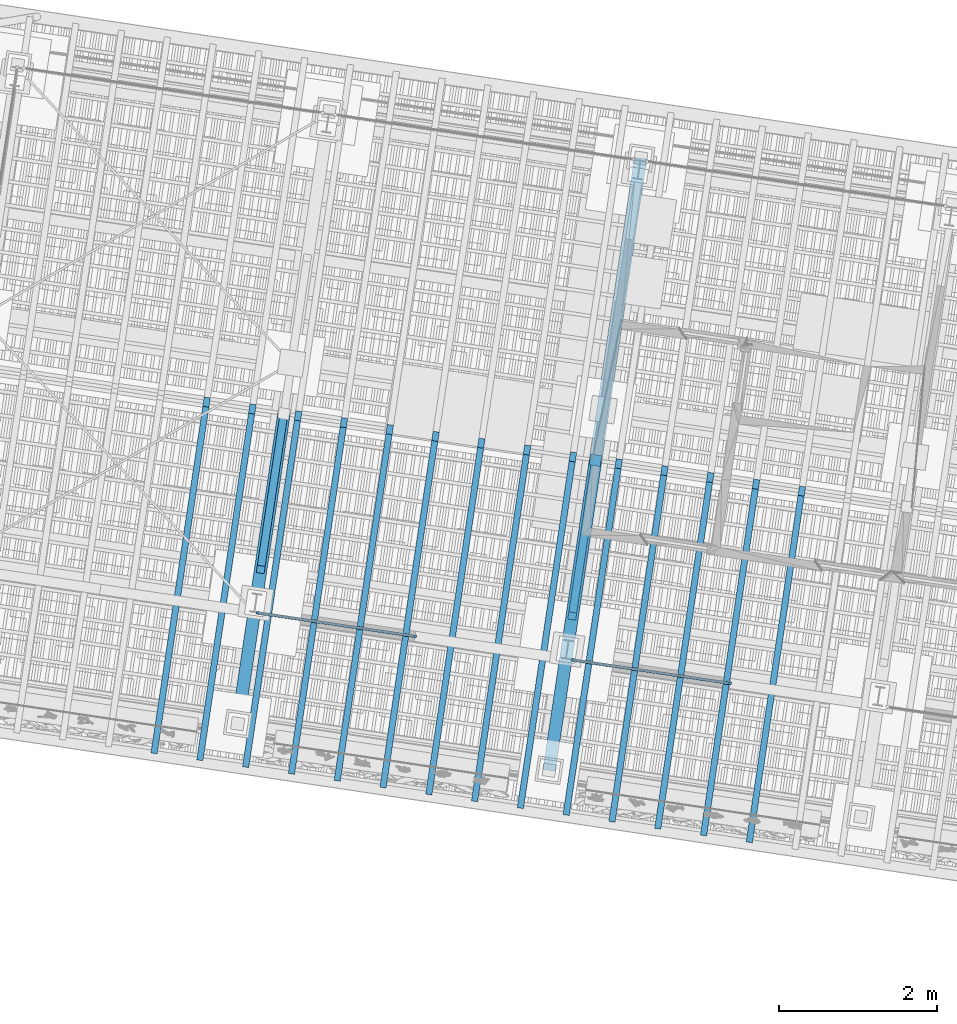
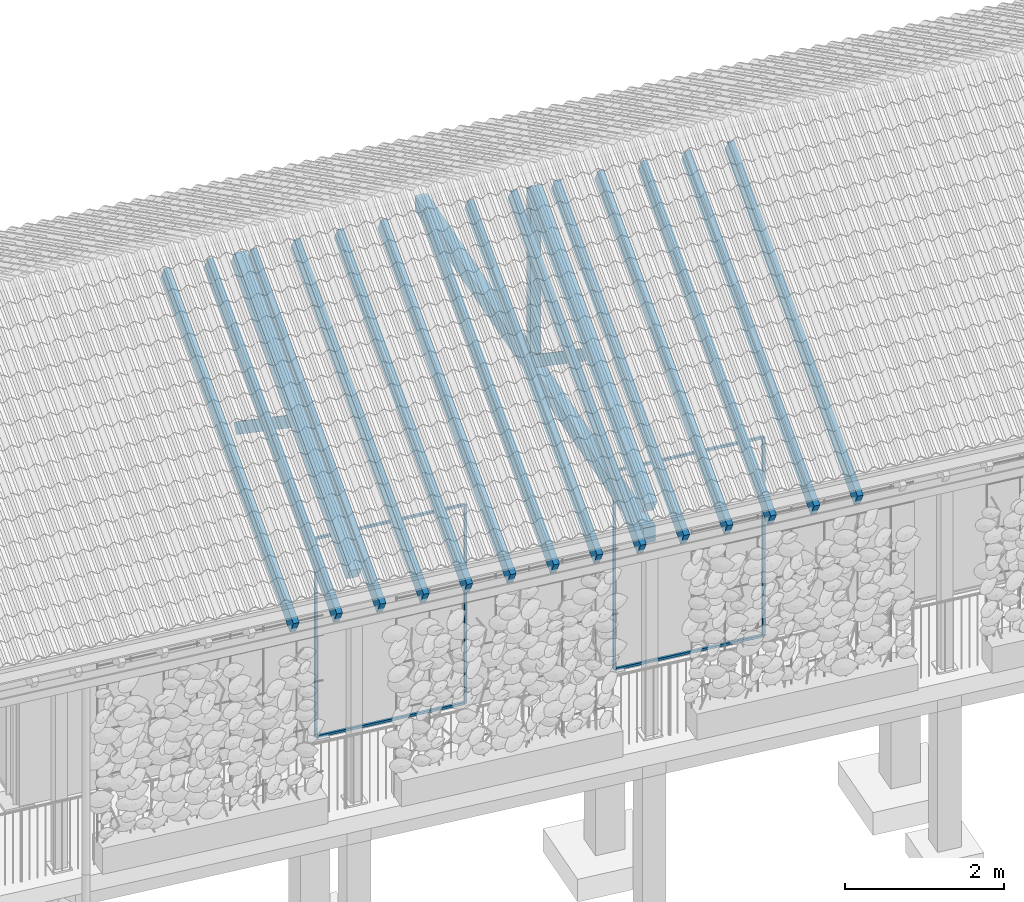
# One storey, part 58 of 131: 27 members, 1 beam, 1 element without a shape of its own.
"""IFC4 building model written with IfcOpenShell, lengths in metres."""

from ifc_helpers import new_model, si_unit, direction, frame, origin_with_axes, place, context, subcontext, project, spatial, rectangle, extrude, material, material_profile, profile_set, profile_usage, type_object, element, aggregate, save


model = new_model("IFC4")

# Units and contexts
model_context = context("Model", 3, precision=1e-05, world=origin_with_axes(), true_north=direction((0.0, 1.0)))
body_context = subcontext(model_context, "Body", "Model", "MODEL_VIEW")
ifc_project = project(units=[si_unit("VOLUMEUNIT", "CUBIC_METRE"), si_unit("LENGTHUNIT", "METRE"), si_unit("AREAUNIT", "SQUARE_METRE")], contexts=[model_context])

# Site, building, storey
site_placement = place(None, origin_with_axes())
site = spatial("IfcSite", under=ifc_project, at=site_placement, Name="Lares · Rua das Mercês · artigo 4771")
building_placement = place(site_placement, frame((15.0, 9.7, 15.8), z_axis=(0.0, 0.0, 1.0), x_axis=(0.989015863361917, -0.147809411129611, 0.0)))
building = spatial("IfcBuilding", under=site, at=building_placement, Name="Casa Sobreposta")
storey_placement = place(building_placement, origin_with_axes())
storey = spatial("IfcBuildingStorey", under=building, at=storey_placement, Name="00 · Habitação e estacionamento", Elevation=15.8)

# Members
ifc_material_1 = material(Name="Aço pintado / Stahl lackiert", Category="steel")
ifc_material_profile_1 = material_profile(ifc_material_1, rectangle(XDim=0.035, YDim=0.035))
ifc_profile_set_1 = profile_set([ifc_material_profile_1], Name="R0.035")
ifc_profile_usage_1 = profile_usage(ifc_profile_set_1)
member_type_1 = type_object("IfcMemberType", Name="R0.035 / steel", PredefinedType="NOTDEFINED", material=ifc_profile_set_1)
member_1_placement = place(storey_placement, frame((4.04266666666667, 0.0, 0.0), z_axis=(0.0, 0.0, 1.0), x_axis=(1.0, 0.0, 0.0)))
element("IfcMember", 1, at=member_1_placement, inside=storey, type_object=member_type_1, material=ifc_profile_usage_1, Name="Folha de correr sul 2 · montante", context=body_context, shape_type="SweptSolid", body=[
    extrude(rectangle(XDim=0.035, YDim=0.035), origin_with_axes(), (0.0, 0.0, 1.0), 3.05),
])
ifc_profile_usage_2 = profile_usage(ifc_profile_set_1)
member_2_placement = place(storey_placement, frame((6.064, 0.0, 0.0), z_axis=(0.0, 0.0, 1.0), x_axis=(1.0, 0.0, 0.0)))
element("IfcMember", 2, at=member_2_placement, inside=storey, type_object=member_type_1, material=ifc_profile_usage_2, Name="Folha de correr sul 2 · montante", context=body_context, shape_type="SweptSolid", body=[
    extrude(rectangle(XDim=0.035, YDim=0.035), origin_with_axes(), (0.0, 0.0, 1.0), 3.05),
])
ifc_profile_usage_3 = profile_usage(ifc_profile_set_1)
member_3_placement = place(storey_placement, frame((4.04266666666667, 0.0, 0.0), z_axis=(1.0, 0.0, 0.0), x_axis=(0.0, -1.0, 0.0)))
element("IfcMember", 3, at=member_3_placement, inside=storey, type_object=member_type_1, material=ifc_profile_usage_3, Name="Folha de correr sul 2 · travessa", context=body_context, shape_type="SweptSolid", body=[
    extrude(rectangle(XDim=0.035, YDim=0.035), origin_with_axes(), (0.0, 0.0, 1.0), 2.02133333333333),
])
ifc_profile_usage_4 = profile_usage(ifc_profile_set_1)
member_4_placement = place(storey_placement, frame((4.04266666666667, 0.0, 3.05), z_axis=(1.0, 0.0, 0.0), x_axis=(0.0, -1.0, 0.0)))
element("IfcMember", 4, at=member_4_placement, inside=storey, type_object=member_type_1, material=ifc_profile_usage_4, Name="Folha de correr sul 2 · travessa", context=body_context, shape_type="SweptSolid", body=[
    extrude(rectangle(XDim=0.035, YDim=0.035), origin_with_axes(), (0.0, 0.0, 1.0), 2.02133333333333),
])
ifc_profile_usage_5 = profile_usage(ifc_profile_set_1)
member_5_placement = place(storey_placement, frame((8.08533333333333, 0.0, 0.0), z_axis=(0.0, 0.0, 1.0), x_axis=(1.0, 0.0, 0.0)))
element("IfcMember", 5, at=member_5_placement, inside=storey, type_object=member_type_1, material=ifc_profile_usage_5, Name="Folha de correr sul 4 · montante", context=body_context, shape_type="SweptSolid", body=[
    extrude(rectangle(XDim=0.035, YDim=0.035), origin_with_axes(), (0.0, 0.0, 1.0), 3.05),
])
ifc_profile_usage_6 = profile_usage(ifc_profile_set_1)
member_6_placement = place(storey_placement, frame((10.1066666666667, 0.0, 0.0), z_axis=(0.0, 0.0, 1.0), x_axis=(1.0, 0.0, 0.0)))
element("IfcMember", 6, at=member_6_placement, inside=storey, type_object=member_type_1, material=ifc_profile_usage_6, Name="Folha de correr sul 4 · montante", context=body_context, shape_type="SweptSolid", body=[
    extrude(rectangle(XDim=0.035, YDim=0.035), origin_with_axes(), (0.0, 0.0, 1.0), 3.05),
])
ifc_profile_usage_7 = profile_usage(ifc_profile_set_1)
member_7_placement = place(storey_placement, frame((8.08533333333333, 0.0, 0.0), z_axis=(1.0, 0.0, 0.0), x_axis=(0.0, -1.0, 0.0)))
element("IfcMember", 7, at=member_7_placement, inside=storey, type_object=member_type_1, material=ifc_profile_usage_7, Name="Folha de correr sul 4 · travessa", context=body_context, shape_type="SweptSolid", body=[
    extrude(rectangle(XDim=0.035, YDim=0.035), origin_with_axes(), (0.0, 0.0, 1.0), 2.02133333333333),
])
ifc_profile_usage_8 = profile_usage(ifc_profile_set_1)
member_8_placement = place(storey_placement, frame((8.08533333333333, 0.0, 3.05), z_axis=(1.0, 0.0, 0.0), x_axis=(0.0, -1.0, 0.0)))
element("IfcMember", 8, at=member_8_placement, inside=storey, type_object=member_type_1, material=ifc_profile_usage_8, Name="Folha de correr sul 4 · travessa", context=body_context, shape_type="SweptSolid", body=[
    extrude(rectangle(XDim=0.035, YDim=0.035), origin_with_axes(), (0.0, 0.0, 1.0), 2.02133333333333),
])

# Roof, beam, members
ifc_material_2 = material(Name="Madeira / Bauholz", Category="wood")
roof_placement = place(storey_placement, origin_with_axes())
roof = element("IfcRoof", 9, at=roof_placement, inside=storey, material=ifc_material_2, Name="Cobertura de telha · duas águas 30 graus", PredefinedType="GABLE_ROOF")
ifc_material_profile_2 = material_profile(ifc_material_2, rectangle(XDim=0.16, YDim=0.24))
ifc_profile_set_2 = profile_set([ifc_material_profile_2], Name="TIMBER0.160x0.240")
ifc_profile_usage_9 = profile_usage(ifc_profile_set_2)
beam_type = type_object("IfcBeamType", Name="TIMBER0.160x0.240 / timber", PredefinedType="NOTDEFINED", material=ifc_profile_set_2)
beam_placement = place(roof_placement, frame((8.0, -1.43, 3.02), z_axis=(0.0, 1.0, 0.0), x_axis=(1.0, 0.0, 0.0)))
beam = element("IfcBeam", 10, at=beam_placement, type_object=beam_type, material=ifc_profile_usage_9, Name="Tesoura · tirante inferior", context=body_context, shape_type="SweptSolid", body=[
    extrude(rectangle(XDim=0.16, YDim=0.24), origin_with_axes(), (0.0, 0.0, 1.0), 7.86),
])
ifc_material_profile_3 = material_profile(ifc_material_2, rectangle(XDim=0.16, YDim=0.24))
ifc_profile_set_3 = profile_set([ifc_material_profile_3], Name="TIMBER0.160x0.240")
ifc_profile_usage_10 = profile_usage(ifc_profile_set_3)
member_type_2 = type_object("IfcMemberType", Name="TIMBER0.160x0.240 / timber", PredefinedType="NOTDEFINED", material=ifc_profile_set_3)
member_9_placement = place(roof_placement, frame((4.0, -1.43, 3.44635462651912), z_axis=(0.0, 0.866025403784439, 0.5), x_axis=(1.0, 0.0, 0.0)))
member_9 = element("IfcMember", 11, at=member_9_placement, type_object=member_type_2, material=ifc_profile_usage_10, Name="Tesoura · perna", context=body_context, shape_type="SweptSolid", body=[
    extrude(rectangle(XDim=0.16, YDim=0.24), origin_with_axes(), (0.0, 0.0, 1.0), 4.59570814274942),
])
ifc_profile_usage_11 = profile_usage(ifc_profile_set_3)
member_10_placement = place(roof_placement, frame((8.0, -1.43, 3.44635462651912), z_axis=(0.0, 0.866025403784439, 0.5), x_axis=(1.0, 0.0, 0.0)))
member_10 = element("IfcMember", 12, at=member_10_placement, type_object=member_type_2, material=ifc_profile_usage_11, Name="Tesoura · perna", context=body_context, shape_type="SweptSolid", body=[
    extrude(rectangle(XDim=0.16, YDim=0.24), origin_with_axes(), (0.0, 0.0, 1.0), 4.59570814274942),
])
ifc_material_profile_4 = material_profile(ifc_material_2, rectangle(XDim=0.14, YDim=0.14))
ifc_profile_set_4 = profile_set([ifc_material_profile_4], Name="TIMBER0.140x0.140")
ifc_profile_usage_12 = profile_usage(ifc_profile_set_4)
member_type_3 = type_object("IfcMemberType", Name="TIMBER0.140x0.140 / timber", PredefinedType="NOTDEFINED", material=ifc_profile_set_4)
member_11_placement = place(roof_placement, frame((8.0, 2.55, 3.02), z_axis=(0.0, 0.0, 1.0), x_axis=(1.0, 0.0, 0.0)))
member_11 = element("IfcMember", 13, at=member_11_placement, type_object=member_type_3, material=ifc_profile_usage_12, Name="Tesoura · pendural", context=body_context, shape_type="SweptSolid", body=[
    extrude(rectangle(XDim=0.14, YDim=0.14), origin_with_axes(), (0.0, 0.0, 1.0), 2.72420869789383),
])
ifc_material_profile_5 = material_profile(ifc_material_2, rectangle(XDim=0.1, YDim=0.16))
ifc_profile_set_5 = profile_set([ifc_material_profile_5], Name="TIMBER0.100x0.160")
ifc_profile_usage_13 = profile_usage(ifc_profile_set_5)
member_type_4 = type_object("IfcMemberType", Name="TIMBER0.100x0.160 / timber", PredefinedType="NOTDEFINED", material=ifc_profile_set_5)
member_12_placement = place(roof_placement, frame((4.0, 2.55, 3.1), z_axis=(0.0, -0.816439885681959, 0.577430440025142), x_axis=(-1.0, 0.0, 0.0)))
member_12 = element("IfcMember", 14, at=member_12_placement, type_object=member_type_4, material=ifc_profile_usage_13, Name="Tesoura · escora", context=body_context, shape_type="SweptSolid", body=[
    extrude(rectangle(XDim=0.1, YDim=0.16), origin_with_axes(), (0.0, 0.0, 1.0), 2.44965984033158),
])
ifc_profile_usage_14 = profile_usage(ifc_profile_set_5)
member_13_placement = place(roof_placement, frame((8.0, 2.55, 3.1), z_axis=(0.0, -0.816439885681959, 0.577430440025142), x_axis=(-1.0, 0.0, 0.0)))
member_13 = element("IfcMember", 15, at=member_13_placement, type_object=member_type_4, material=ifc_profile_usage_14, Name="Tesoura · escora", context=body_context, shape_type="SweptSolid", body=[
    extrude(rectangle(XDim=0.1, YDim=0.16), origin_with_axes(), (0.0, 0.0, 1.0), 2.44965984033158),
])
ifc_material_profile_6 = material_profile(ifc_material_2, rectangle(XDim=0.08, YDim=0.24))
ifc_profile_set_6 = profile_set([ifc_material_profile_6], Name="TIMBER0.080x0.240")
ifc_profile_usage_15 = profile_usage(ifc_profile_set_6)
member_type_5 = type_object("IfcMemberType", Name="TIMBER0.080x0.240 / timber", PredefinedType="NOTDEFINED", material=ifc_profile_set_6)
member_14_placement = place(roof_placement, frame((3.00606060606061, -1.9, 3.181), z_axis=(0.0, 0.866025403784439, 0.5), x_axis=(1.0, 0.0, 0.0)))
member_14 = element("IfcMember", 16, at=member_14_placement, type_object=member_type_5, material=ifc_profile_usage_15, Name="Cobertura · caibro", context=body_context, shape_type="SweptSolid", body=[
    extrude(rectangle(XDim=0.08, YDim=0.24), origin_with_axes(), (0.0, 0.0, 1.0), 5.13841739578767),
])
ifc_profile_usage_16 = profile_usage(ifc_profile_set_6)
member_15_placement = place(roof_placement, frame((3.59393939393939, -1.9, 3.181), z_axis=(0.0, 0.866025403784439, 0.5), x_axis=(1.0, 0.0, 0.0)))
member_15 = element("IfcMember", 17, at=member_15_placement, type_object=member_type_5, material=ifc_profile_usage_16, Name="Cobertura · caibro", context=body_context, shape_type="SweptSolid", body=[
    extrude(rectangle(XDim=0.08, YDim=0.24), origin_with_axes(), (0.0, 0.0, 1.0), 5.13841739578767),
])
ifc_profile_usage_17 = profile_usage(ifc_profile_set_6)
member_16_placement = place(roof_placement, frame((4.18181818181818, -1.9, 3.181), z_axis=(0.0, 0.866025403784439, 0.5), x_axis=(1.0, 0.0, 0.0)))
member_16 = element("IfcMember", 18, at=member_16_placement, type_object=member_type_5, material=ifc_profile_usage_17, Name="Cobertura · caibro", context=body_context, shape_type="SweptSolid", body=[
    extrude(rectangle(XDim=0.08, YDim=0.24), origin_with_axes(), (0.0, 0.0, 1.0), 5.13841739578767),
])
ifc_profile_usage_18 = profile_usage(ifc_profile_set_6)
member_17_placement = place(roof_placement, frame((4.76969696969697, -1.9, 3.181), z_axis=(0.0, 0.866025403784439, 0.5), x_axis=(1.0, 0.0, 0.0)))
member_17 = element("IfcMember", 19, at=member_17_placement, type_object=member_type_5, material=ifc_profile_usage_18, Name="Cobertura · caibro", context=body_context, shape_type="SweptSolid", body=[
    extrude(rectangle(XDim=0.08, YDim=0.24), origin_with_axes(), (0.0, 0.0, 1.0), 5.13841739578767),
])
ifc_profile_usage_19 = profile_usage(ifc_profile_set_6)
member_18_placement = place(roof_placement, frame((5.35757575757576, -1.9, 3.181), z_axis=(0.0, 0.866025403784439, 0.5), x_axis=(1.0, 0.0, 0.0)))
member_18 = element("IfcMember", 20, at=member_18_placement, type_object=member_type_5, material=ifc_profile_usage_19, Name="Cobertura · caibro", context=body_context, shape_type="SweptSolid", body=[
    extrude(rectangle(XDim=0.08, YDim=0.24), origin_with_axes(), (0.0, 0.0, 1.0), 5.13841739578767),
])
ifc_profile_usage_20 = profile_usage(ifc_profile_set_6)
member_19_placement = place(roof_placement, frame((5.94545454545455, -1.9, 3.181), z_axis=(0.0, 0.866025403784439, 0.5), x_axis=(1.0, 0.0, 0.0)))
member_19 = element("IfcMember", 21, at=member_19_placement, type_object=member_type_5, material=ifc_profile_usage_20, Name="Cobertura · caibro", context=body_context, shape_type="SweptSolid", body=[
    extrude(rectangle(XDim=0.08, YDim=0.24), origin_with_axes(), (0.0, 0.0, 1.0), 5.13841739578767),
])
ifc_profile_usage_21 = profile_usage(ifc_profile_set_6)
member_20_placement = place(roof_placement, frame((6.53333333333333, -1.9, 3.181), z_axis=(0.0, 0.866025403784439, 0.5), x_axis=(1.0, 0.0, 0.0)))
member_20 = element("IfcMember", 22, at=member_20_placement, type_object=member_type_5, material=ifc_profile_usage_21, Name="Cobertura · caibro", context=body_context, shape_type="SweptSolid", body=[
    extrude(rectangle(XDim=0.08, YDim=0.24), origin_with_axes(), (0.0, 0.0, 1.0), 5.13841739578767),
])
ifc_profile_usage_22 = profile_usage(ifc_profile_set_6)
member_21_placement = place(roof_placement, frame((7.12121212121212, -1.9, 3.181), z_axis=(0.0, 0.866025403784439, 0.5), x_axis=(1.0, 0.0, 0.0)))
member_21 = element("IfcMember", 23, at=member_21_placement, type_object=member_type_5, material=ifc_profile_usage_22, Name="Cobertura · caibro", context=body_context, shape_type="SweptSolid", body=[
    extrude(rectangle(XDim=0.08, YDim=0.24), origin_with_axes(), (0.0, 0.0, 1.0), 5.13841739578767),
])
ifc_profile_usage_23 = profile_usage(ifc_profile_set_6)
member_22_placement = place(roof_placement, frame((7.70909090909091, -1.9, 3.181), z_axis=(0.0, 0.866025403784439, 0.5), x_axis=(1.0, 0.0, 0.0)))
member_22 = element("IfcMember", 24, at=member_22_placement, type_object=member_type_5, material=ifc_profile_usage_23, Name="Cobertura · caibro", context=body_context, shape_type="SweptSolid", body=[
    extrude(rectangle(XDim=0.08, YDim=0.24), origin_with_axes(), (0.0, 0.0, 1.0), 5.13841739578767),
])
ifc_profile_usage_24 = profile_usage(ifc_profile_set_6)
member_23_placement = place(roof_placement, frame((8.2969696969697, -1.9, 3.181), z_axis=(0.0, 0.866025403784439, 0.5), x_axis=(1.0, 0.0, 0.0)))
member_23 = element("IfcMember", 25, at=member_23_placement, type_object=member_type_5, material=ifc_profile_usage_24, Name="Cobertura · caibro", context=body_context, shape_type="SweptSolid", body=[
    extrude(rectangle(XDim=0.08, YDim=0.24), origin_with_axes(), (0.0, 0.0, 1.0), 5.13841739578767),
])
ifc_profile_usage_25 = profile_usage(ifc_profile_set_6)
member_24_placement = place(roof_placement, frame((8.88484848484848, -1.9, 3.181), z_axis=(0.0, 0.866025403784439, 0.5), x_axis=(1.0, 0.0, 0.0)))
member_24 = element("IfcMember", 26, at=member_24_placement, type_object=member_type_5, material=ifc_profile_usage_25, Name="Cobertura · caibro", context=body_context, shape_type="SweptSolid", body=[
    extrude(rectangle(XDim=0.08, YDim=0.24), origin_with_axes(), (0.0, 0.0, 1.0), 5.13841739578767),
])
ifc_profile_usage_26 = profile_usage(ifc_profile_set_6)
member_25_placement = place(roof_placement, frame((9.47272727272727, -1.9, 3.181), z_axis=(0.0, 0.866025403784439, 0.5), x_axis=(1.0, 0.0, 0.0)))
member_25 = element("IfcMember", 27, at=member_25_placement, type_object=member_type_5, material=ifc_profile_usage_26, Name="Cobertura · caibro", context=body_context, shape_type="SweptSolid", body=[
    extrude(rectangle(XDim=0.08, YDim=0.24), origin_with_axes(), (0.0, 0.0, 1.0), 5.13841739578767),
])
ifc_profile_usage_27 = profile_usage(ifc_profile_set_6)
member_26_placement = place(roof_placement, frame((10.0606060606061, -1.9, 3.181), z_axis=(0.0, 0.866025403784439, 0.5), x_axis=(1.0, 0.0, 0.0)))
member_26 = element("IfcMember", 28, at=member_26_placement, type_object=member_type_5, material=ifc_profile_usage_27, Name="Cobertura · caibro", context=body_context, shape_type="SweptSolid", body=[
    extrude(rectangle(XDim=0.08, YDim=0.24), origin_with_axes(), (0.0, 0.0, 1.0), 5.13841739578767),
])
ifc_profile_usage_28 = profile_usage(ifc_profile_set_6)
member_27_placement = place(roof_placement, frame((10.6484848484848, -1.9, 3.181), z_axis=(0.0, 0.866025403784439, 0.5), x_axis=(1.0, 0.0, 0.0)))
member_27 = element("IfcMember", 29, at=member_27_placement, type_object=member_type_5, material=ifc_profile_usage_28, Name="Cobertura · caibro", context=body_context, shape_type="SweptSolid", body=[
    extrude(rectangle(XDim=0.08, YDim=0.24), origin_with_axes(), (0.0, 0.0, 1.0), 5.13841739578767),
])
aggregate(roof, [member_9, member_12, beam, member_10, member_11, member_13, member_14, member_15, member_16, member_17, member_18, member_19, member_20, member_21, member_22, member_23, member_24, member_25, member_26, member_27])

save(model, "model.ifc")
